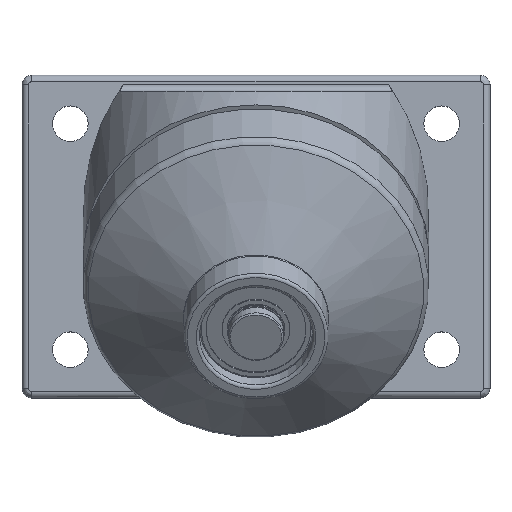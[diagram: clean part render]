
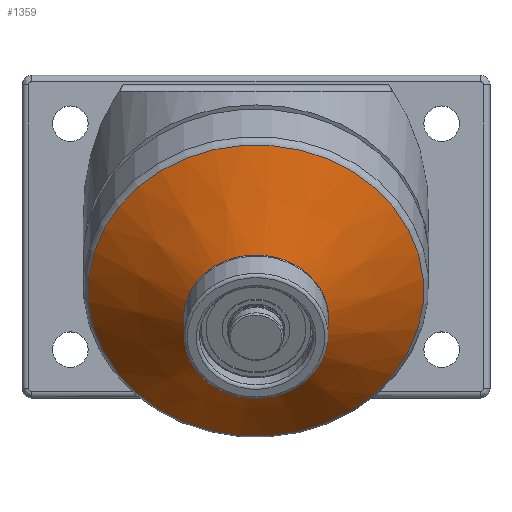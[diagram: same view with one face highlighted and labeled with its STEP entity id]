
A CAD part, top view. The second image highlights one B-rep face of the part: STEP entity #1359.
In plain terms, the highlighted conical face has half-angle 60 degrees and reference radius 37.911 mm.
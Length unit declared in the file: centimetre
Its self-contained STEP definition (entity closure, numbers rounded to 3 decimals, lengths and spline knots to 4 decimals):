
#93=CONICAL_SURFACE('',#1483,3.7912,60.);
#199=FACE_BOUND('',#400,.T.);
#280=FACE_OUTER_BOUND('',#399,.T.);
#399=EDGE_LOOP('',(#960));
#400=EDGE_LOOP('',(#961));
#565=CIRCLE('',#1479,2.2523);
#568=CIRCLE('',#1484,5.2);
#670=VERTEX_POINT('',#2163);
#673=VERTEX_POINT('',#2171);
#791=EDGE_CURVE('',#670,#670,#565,.T.);
#794=EDGE_CURVE('',#673,#673,#568,.T.);
#960=ORIENTED_EDGE('',*,*,#794,.F.);
#961=ORIENTED_EDGE('',*,*,#791,.F.);
#1359=ADVANCED_FACE('',(#280,#199),#93,.T.);
#1479=AXIS2_PLACEMENT_3D('',#2164,#1726,#1727);
#1483=AXIS2_PLACEMENT_3D('',#2170,#1734,#1735);
#1484=AXIS2_PLACEMENT_3D('',#2172,#1736,#1737);
#1726=DIRECTION('center_axis',(0.,-0.5,0.866));
#1727=DIRECTION('ref_axis',(0.251,-0.838,-0.484));
#1734=DIRECTION('center_axis',(0.,0.5,-0.866));
#1735=DIRECTION('ref_axis',(-0.251,0.838,0.484));
#1736=DIRECTION('center_axis',(0.,0.5,-0.866));
#1737=DIRECTION('ref_axis',(0.251,-0.838,-0.484));
#2163=CARTESIAN_POINT('',(-0.5648,0.194,7.9637));
#2164=CARTESIAN_POINT('Origin',(0.,-1.6942,
6.8735));
#2170=CARTESIAN_POINT('Origin',(0.,-1.25,6.1041));
#2171=CARTESIAN_POINT('',(-1.3041,3.5161,7.9166));
#2172=CARTESIAN_POINT('Origin',(0.,-0.8433,
5.3996));
